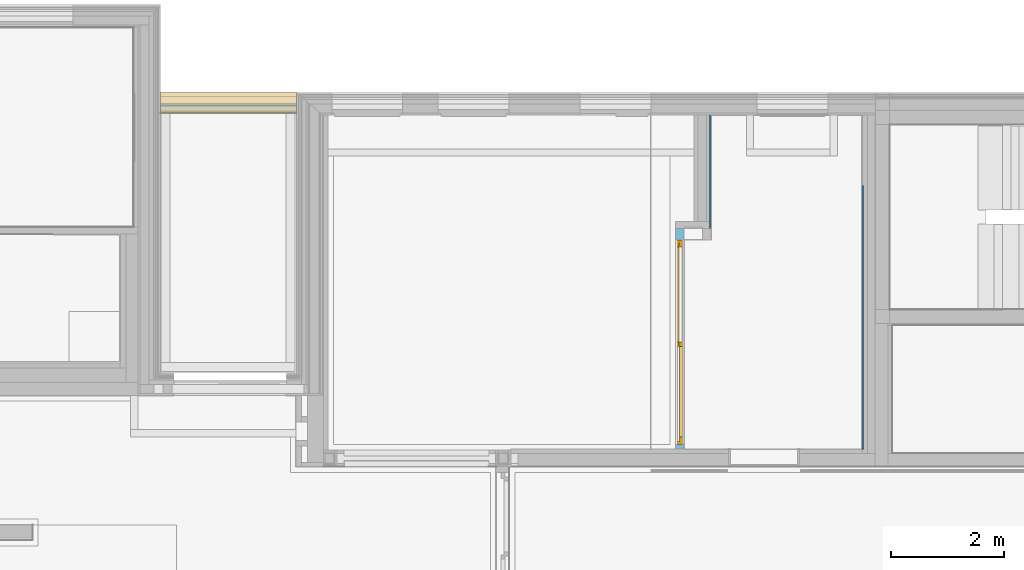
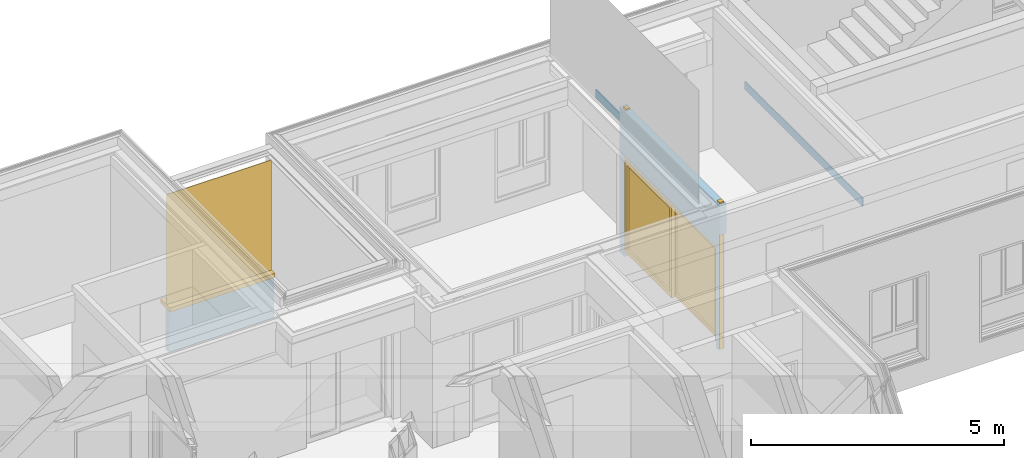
# One storey, part 106 of 222: 2 walls, 1 door, 1 window, 2 openings, plus 2 elements that do not belong to this part.
"""IFC4 building model written with IfcOpenShell, lengths in metres."""

from ifc_helpers import new_model, entity, si_unit, converted_unit, derived_unit, frame, frame_2d, origin, origin_with_axes, place, context, subcontext, project, spatial, polyline, rectangle, outline, extrude, clip, bounded_halfspace, closed_shell, open_shell, faceted_brep, surface_model, source, transform, mapped, material, element, fill, save


model = new_model("IFC4")

# Units and contexts
model_context = context("Model", 3, precision=1e-05, world=origin())
body_context = subcontext(model_context, "Body", "Model", "MODEL_VIEW")
ifc_project = project(units=[si_unit("LENGTHUNIT", "METRE"), si_unit("AREAUNIT", "SQUARE_METRE"), si_unit("VOLUMEUNIT", "CUBIC_METRE"), si_unit("MASSUNIT", "GRAM", prefix="KILO"), converted_unit("PLANEANGLEUNIT", "DEGREE", entity("IfcPlaneAngleMeasure", 0.0174532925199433), si_unit("PLANEANGLEUNIT", "RADIAN"), dimensions=[0, 0, 0, 0, 0, 0, 0]), derived_unit("THERMALTRANSMITTANCEUNIT", [(si_unit("POWERUNIT", "WATT"), 1), (si_unit("THERMODYNAMICTEMPERATUREUNIT", "KELVIN"), -1), (si_unit("LENGTHUNIT", "METRE"), -2)]), derived_unit("VOLUMETRICFLOWRATEUNIT", [(si_unit("LENGTHUNIT", "METRE"), 3), (converted_unit("TIMEUNIT", "hour", entity("IfcTimeMeasure", 3600.0), si_unit("TIMEUNIT", "SECOND"), dimensions=[0, 0, 1, 0, 0, 0, 0]), -1), (si_unit("LENGTHUNIT", "METRE"), -1)])], contexts=[model_context])

# Site, building, storey
site_placement = place(None, origin())
site = spatial("IfcSite", under=ifc_project, at=site_placement, Name="Psychiatrie Neubau Wunstorf", CompositionType="ELEMENT")
building_placement = place(site_placement, origin())
building = spatial("IfcBuilding", under=site, at=building_placement, Name="Neubau H2 Stationsgebäude", CompositionType="ELEMENT")
storey_placement = place(building_placement, frame((0.0, 0.0, 3.6)))
storey = spatial("IfcBuildingStorey", under=building, at=storey_placement, Name="H2 Ebene +1", CompositionType="ELEMENT", Elevation=3.6)

# Wall, opening, window
ifc_material_1 = material(Name="WI-SYS")
wall_1_placement = place(storey_placement, frame((37.6855, 29.2649998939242, -0.51), z_axis=(0.0, 0.0, 1.0), x_axis=(-1.0, 0.0, 0.0)))
wall_1 = element("IfcWall", 1, at=wall_1_placement, inside=storey, material=ifc_material_1, context=body_context, shape_type="SweptSolid", body=[
    extrude(rectangle(XDim=2.3945, YDim=0.127500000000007, at=frame_2d((1.19725, 0.0637500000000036), x_axis=(1.0, 0.0))), origin_with_axes(), (0.0, 0.0, 1.0), 3.685),
])
opening_1_placement = place(wall_1_placement, frame((0.0, 0.0, 1.0), z_axis=(0.0, 1.0, 0.0), x_axis=(0.0, 0.0, 1.0)))
opening_1 = element("IfcOpeningElement", 2, at=opening_1_placement, cuts=wall_1, Name="Fensteröffnung", ObjectType="Opening", context=body_context, shape_type="SweptSolid", body=[
    extrude(outline(polyline([(2.755, 2.3945), (2.755, 0.0), (0.0, 0.0), (0.0, 2.3945), (2.755, 2.3945)])), origin_with_axes(), (0.0, 0.0, 1.0), 0.127500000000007),
])
shared_shape_1 = source(origin_with_axes(), body_context, "Body", "Brep", [
    faceted_brep([(0.0, 0.37, 0.1), (0.0, 0.37, 0.0), (2.3945, 0.37, 0.0), (2.3945, 0.37, 0.1), (0.0, 0.0, 0.0), (0.0, 0.0, 0.1), (2.3945, 0.0, 0.1), (2.3945, 0.0, 0.0)], [[[0, 1, 2, 3]], [[4, 5, 6, 7]], [[1, 0, 5, 4]], [[2, 1, 4, 7]], [[3, 2, 7, 6]], [[0, 3, 6, 5]]], orient=[[False], [False], [False], [False], [False], [False]]),
    faceted_brep([(0.0, 0.24, 2.755), (0.0, 0.24, 0.1), (0.06, 0.24, 0.1), (0.06, 0.24, 2.755), (0.0, 0.225, 0.1), (0.0, 0.225, 2.755), (0.06, 0.225, 2.755), (0.06, 0.225, 0.1)], [[[0, 1, 2, 3]], [[4, 5, 6, 7]], [[1, 0, 5, 4]], [[2, 1, 4, 7]], [[3, 2, 7, 6]], [[0, 3, 6, 5]]], orient=[[False], [False], [False], [False], [False], [False]]),
    faceted_brep([(2.3345, 0.24, 2.755), (2.3345, 0.24, 0.1), (2.3945, 0.24, 0.1), (2.3945, 0.24, 2.755), (2.3345, 0.225, 0.1), (2.3345, 0.225, 2.755), (2.3945, 0.225, 2.755), (2.3945, 0.225, 0.1)], [[[0, 1, 2, 3]], [[4, 5, 6, 7]], [[1, 0, 5, 4]], [[2, 1, 4, 7]], [[3, 2, 7, 6]], [[0, 3, 6, 5]]], orient=[[False], [False], [False], [False], [False], [False]]),
    faceted_brep([(0.06, 0.24, 0.12), (0.06, 0.24, 0.1), (2.3345, 0.24, 0.1), (2.3345, 0.24, 0.12), (0.06, 0.225, 0.1), (0.06, 0.225, 0.12), (2.3345, 0.225, 0.12), (2.3345, 0.225, 0.1)], [[[0, 1, 2, 3]], [[4, 5, 6, 7]], [[1, 0, 5, 4]], [[2, 1, 4, 7]], [[3, 2, 7, 6]], [[0, 3, 6, 5]]], orient=[[False], [False], [False], [False], [False], [False]]),
    faceted_brep([(0.06, 0.24, 2.755), (0.06, 0.24, 2.635), (2.3345, 0.24, 2.635), (2.3345, 0.24, 2.755), (0.06, 0.225, 2.635), (0.06, 0.225, 2.755), (2.3345, 0.225, 2.755), (2.3345, 0.225, 2.635)], [[[0, 1, 2, 3]], [[4, 5, 6, 7]], [[1, 0, 5, 4]], [[2, 1, 4, 7]], [[3, 2, 7, 6]], [[0, 3, 6, 5]]], orient=[[False], [False], [False], [False], [False], [False]]),
    faceted_brep([(0.778166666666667, 0.24, 2.635), (0.778166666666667, 0.24, 0.12), (0.838166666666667, 0.24, 0.12), (0.838166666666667, 0.24, 2.635), (0.778166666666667, 0.225, 0.12), (0.778166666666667, 0.225, 2.635), (0.838166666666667, 0.225, 2.635), (0.838166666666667, 0.225, 0.12)], [[[0, 1, 2, 3]], [[4, 5, 6, 7]], [[1, 0, 5, 4]], [[2, 1, 4, 7]], [[3, 2, 7, 6]], [[0, 3, 6, 5]]], orient=[[False], [False], [False], [False], [False], [False]]),
    faceted_brep([(1.55633333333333, 0.24, 2.635), (1.55633333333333, 0.24, 0.12), (1.61633333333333, 0.24, 0.12), (1.61633333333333, 0.24, 2.635), (1.55633333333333, 0.225, 0.12), (1.55633333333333, 0.225, 2.635), (1.61633333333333, 0.225, 2.635), (1.61633333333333, 0.225, 0.12)], [[[0, 1, 2, 3]], [[4, 5, 6, 7]], [[1, 0, 5, 4]], [[2, 1, 4, 7]], [[3, 2, 7, 6]], [[0, 3, 6, 5]]], orient=[[False], [False], [False], [False], [False], [False]]),
    faceted_brep([(0.06, 0.24, 2.635), (0.06, 0.24, 0.12), (0.778166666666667, 0.24, 0.12), (0.778166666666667, 0.24, 2.635), (0.06, 0.225, 0.12), (0.06, 0.225, 2.635), (0.778166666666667, 0.225, 2.635), (0.778166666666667, 0.225, 0.12)], [[[0, 1, 2, 3]], [[4, 5, 6, 7]], [[1, 0, 5, 4]], [[2, 1, 4, 7]], [[3, 2, 7, 6]], [[0, 3, 6, 5]]], orient=[[False], [False], [False], [False], [False], [False]]),
    faceted_brep([(0.838166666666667, 0.24, 2.635), (0.838166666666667, 0.24, 0.12), (1.55633333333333, 0.24, 0.12), (1.55633333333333, 0.24, 2.635), (0.838166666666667, 0.225, 0.12), (0.838166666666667, 0.225, 2.635), (1.55633333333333, 0.225, 2.635), (1.55633333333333, 0.225, 0.12)], [[[0, 1, 2, 3]], [[4, 5, 6, 7]], [[1, 0, 5, 4]], [[2, 1, 4, 7]], [[3, 2, 7, 6]], [[0, 3, 6, 5]]], orient=[[False], [False], [False], [False], [False], [False]]),
    faceted_brep([(1.61633333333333, 0.24, 2.635), (1.61633333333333, 0.24, 0.12), (2.3345, 0.24, 0.12), (2.3345, 0.24, 2.635), (1.61633333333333, 0.225, 0.12), (1.61633333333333, 0.225, 2.635), (2.3345, 0.225, 2.635), (2.3345, 0.225, 0.12)], [[[0, 1, 2, 3]], [[4, 5, 6, 7]], [[1, 0, 5, 4]], [[2, 1, 4, 7]], [[3, 2, 7, 6]], [[0, 3, 6, 5]]], orient=[[False], [False], [False], [False], [False], [False]]),
])
window_placement = place(opening_1_placement, frame((0.0, 0.0, -0.202500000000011), z_axis=(1.0, 0.0, 0.0), x_axis=(0.0, 1.0, -1.22464679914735e-16)))
window = element("IfcWindow", 3, at=window_placement, inside=storey, Name="Fenster", OverallHeight=2.755, OverallWidth=2.3945, PartitioningType="USERDEFINED", PredefinedType="WINDOW", context=body_context, shape_type="MappedRepresentation", body=[
    mapped(shared_shape_1, transform((0.0, 0.0, 0.0), x_axis=(1.0, 0.0, 0.0), y_axis=(0.0, 1.0, 0.0), z_axis=(0.0, 0.0, 1.0), scale=1.0)),
])
fill(opening_1, window)

# Wall, opening, door
ifc_material_2 = material(Name="WI-LB")
wall_2_placement = place(storey_placement, frame((44.525, 23.0959999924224, 0.0), z_axis=(0.0, 0.0, 1.0), x_axis=(0.0, 1.0, 0.0)))
wall_2 = element("IfcWall", 4, at=wall_2_placement, inside=storey, material=ifc_material_2, context=body_context, shape_type="Clipping", body=[
    clip(extrude(rectangle(XDim=3.96799969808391, YDim=0.15, at=frame_2d((1.98399984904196, 0.075), x_axis=(1.0, 0.0))), origin_with_axes(), (0.0, 0.0, 1.0), 3.51), bounded_halfspace(frame((0.0375, 0.075, 2.81), z_axis=(0.0, 0.0, 1.0), x_axis=(0.0, 1.0, 0.0)), True, origin_with_axes(), polyline([(0.075, 0.0), (0.075, 0.15), (0.0, 0.15), (0.0, 0.0), (0.075, 0.0)]))),
])
opening_2_placement = place(wall_2_placement, frame((0.157999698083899, 0.0, 0.0), z_axis=(0.0, 1.0, 0.0), x_axis=(0.0, 0.0, 1.0)))
opening_2 = element("IfcOpeningElement", 5, at=opening_2_placement, cuts=wall_2, Name="Türöffnung", ObjectType="Opening", context=body_context, shape_type="SweptSolid", body=[
    extrude(outline(polyline([(2.41, 3.61), (2.41, 0.0), (0.0, 0.0), (0.0, 3.61), (2.41, 3.61)])), origin_with_axes(), (0.0, 0.0, 1.0), 0.15),
])
ifc_material_3 = material(Name="TI-1F-AG-S")
shared_shape_2 = source(origin_with_axes(), body_context, "Body", "Brep", [
    faceted_brep([(3.70999999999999, 0.0249999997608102, 0.0), (3.70999999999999, 0.12499999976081, 0.0), (3.60999999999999, 0.12499999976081, 0.0), (3.60999999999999, 0.0249999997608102, 0.0), (3.70999999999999, 0.12499999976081, 3.55), (3.70999999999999, 0.0249999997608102, 3.55), (3.60999999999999, 0.0249999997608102, 3.55), (3.60999999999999, 0.12499999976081, 3.55)], [[[0, 1, 2, 3]], [[4, 5, 6, 7]], [[1, 0, 5, 4]], [[2, 1, 4, 7]], [[3, 2, 7, 6]], [[0, 3, 6, 5]]], orient=[[False], [False], [False], [False], [False], [False]]),
    faceted_brep([(0.0, 0.0249999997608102, 0.0), (0.0, 0.12499999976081, 0.0), (-0.100000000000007, 0.12499999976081, 0.0), (-0.100000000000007, 0.0249999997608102, 0.0), (0.0, 0.12499999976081, 3.55), (0.0, 0.0249999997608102, 3.55), (-0.100000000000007, 0.0249999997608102, 3.55), (-0.100000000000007, 0.12499999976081, 3.55)], [[[0, 1, 2, 3]], [[4, 5, 6, 7]], [[1, 0, 5, 4]], [[2, 1, 4, 7]], [[3, 2, 7, 6]], [[0, 3, 6, 5]]], orient=[[False], [False], [False], [False], [False], [False]]),
    faceted_brep([(3.60999999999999, 0.0249999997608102, 2.41), (3.60999999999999, 0.12499999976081, 2.41), (0.0, 0.12499999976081, 2.41), (0.0, 0.0249999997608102, 2.41), (3.60999999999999, 0.12499999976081, 2.51), (3.60999999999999, 0.0249999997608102, 2.51), (0.0, 0.0249999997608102, 2.51), (0.0, 0.12499999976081, 2.51)], [[[0, 1, 2, 3]], [[4, 5, 6, 7]], [[1, 0, 5, 4]], [[2, 1, 4, 7]], [[3, 2, 7, 6]], [[0, 3, 6, 5]]], orient=[[False], [False], [False], [False], [False], [False]]),
])
shared_shape_3 = source(origin_with_axes(), body_context, "Body", "SurfaceModel", [
    surface_model("IfcShellBasedSurfaceModel", [(3.60999999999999, 0.149999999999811, 2.41), (3.55999999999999, 0.149999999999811, 2.41), (3.55999999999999, 0.149999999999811, 0.15), (3.60999999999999, 0.149999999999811, 0.15), (3.60999999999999, 0.0, 0.15), (3.55999999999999, 0.0, 0.15), (3.55999999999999, 0.0, 2.41), (3.60999999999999, 0.0, 2.41)], [closed_shell([[[0, 1, 2, 3]], [[4, 5, 6, 7]], [[3, 4, 7, 0]], [[2, 5, 4, 3]], [[1, 6, 5, 2]], [[0, 7, 6, 1]]], orient=[[False], [False], [False], [False], [False], [False]])]),
    surface_model("IfcShellBasedSurfaceModel", [(0.0499999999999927, 0.149999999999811, 2.41), (0.0, 0.149999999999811, 2.41), (0.0, 0.149999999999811, 0.15), (0.0499999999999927, 0.149999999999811, 0.15), (0.0499999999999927, 0.0, 0.15), (0.0, 0.0, 0.15), (0.0, 0.0, 2.41), (0.0499999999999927, 0.0, 2.41)], [closed_shell([[[0, 1, 2, 3]], [[4, 5, 6, 7]], [[3, 4, 7, 0]], [[2, 5, 4, 3]], [[1, 6, 5, 2]], [[0, 7, 6, 1]]], orient=[[False], [False], [False], [False], [False], [False]])]),
    surface_model("IfcShellBasedSurfaceModel", [(3.55999999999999, 0.149999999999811, 2.41), (0.0499999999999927, 0.149999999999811, 2.41), (0.0499999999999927, 0.149999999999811, 2.36), (3.55999999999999, 0.149999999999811, 2.36), (3.55999999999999, 0.0, 2.36), (0.0499999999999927, 0.0, 2.36), (0.0499999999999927, 0.0, 2.41), (3.55999999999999, 0.0, 2.41)], [closed_shell([[[0, 1, 2, 3]], [[4, 5, 6, 7]], [[3, 4, 7, 0]], [[2, 5, 4, 3]], [[1, 6, 5, 2]], [[0, 7, 6, 1]]], orient=[[False], [False], [False], [False], [False], [False]])]),
    surface_model("IfcShellBasedSurfaceModel", [(3.55999999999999, 0.0799999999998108, 2.36), (3.47999999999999, 0.0799999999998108, 2.36), (3.47999999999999, 0.0799999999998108, 0.15), (3.55999999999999, 0.0799999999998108, 0.15), (3.55999999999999, 0.0, 0.15), (3.47999999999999, 0.0, 0.15), (3.47999999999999, 0.0, 2.36), (3.55999999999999, 0.0, 2.36)], [closed_shell([[[0, 1, 2, 3]], [[4, 5, 6, 7]], [[3, 4, 7, 0]], [[2, 5, 4, 3]], [[1, 6, 5, 2]], [[0, 7, 6, 1]]], orient=[[False], [False], [False], [False], [False], [False]])]),
    surface_model("IfcShellBasedSurfaceModel", [(0.129999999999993, 0.0799999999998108, 2.36), (0.0499999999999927, 0.0799999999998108, 2.36), (0.0499999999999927, 0.0799999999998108, 0.15), (0.129999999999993, 0.0799999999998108, 0.15), (0.129999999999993, 0.0, 0.15), (0.0499999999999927, 0.0, 0.15), (0.0499999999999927, 0.0, 2.36), (0.129999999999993, 0.0, 2.36)], [closed_shell([[[0, 1, 2, 3]], [[4, 5, 6, 7]], [[3, 4, 7, 0]], [[2, 5, 4, 3]], [[1, 6, 5, 2]], [[0, 7, 6, 1]]], orient=[[False], [False], [False], [False], [False], [False]])]),
    surface_model("IfcShellBasedSurfaceModel", [(3.47999999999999, 0.0799999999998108, 2.36), (0.129999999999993, 0.0799999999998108, 2.36), (0.129999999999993, 0.0799999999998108, 2.28), (3.47999999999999, 0.0799999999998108, 2.28), (3.47999999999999, 0.0, 2.28), (0.129999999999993, 0.0, 2.28), (0.129999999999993, 0.0, 2.36), (3.47999999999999, 0.0, 2.36)], [closed_shell([[[0, 1, 2, 3]], [[4, 5, 6, 7]], [[3, 4, 7, 0]], [[2, 5, 4, 3]], [[1, 6, 5, 2]], [[0, 7, 6, 1]]], orient=[[False], [False], [False], [False], [False], [False]])]),
    surface_model("IfcShellBasedSurfaceModel", [(3.55999999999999, 0.169999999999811, 2.36), (3.47999999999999, 0.169999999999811, 2.36), (3.47999999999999, 0.169999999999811, 0.15), (3.55999999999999, 0.169999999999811, 0.15), (3.55999999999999, 0.0899999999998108, 0.15), (3.47999999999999, 0.0899999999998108, 0.15), (3.47999999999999, 0.0899999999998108, 2.36), (3.55999999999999, 0.0899999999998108, 2.36)], [closed_shell([[[0, 1, 2, 3]], [[4, 5, 6, 7]], [[3, 4, 7, 0]], [[2, 5, 4, 3]], [[1, 6, 5, 2]], [[0, 7, 6, 1]]], orient=[[False], [False], [False], [False], [False], [False]])]),
    surface_model("IfcShellBasedSurfaceModel", [(1.80549999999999, 0.169999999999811, 2.36), (1.72549999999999, 0.169999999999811, 2.36), (1.72549999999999, 0.169999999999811, 0.15), (1.80549999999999, 0.169999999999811, 0.15), (1.80549999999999, 0.0899999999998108, 0.15), (1.72549999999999, 0.0899999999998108, 0.15), (1.72549999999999, 0.0899999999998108, 2.36), (1.80549999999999, 0.0899999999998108, 2.36)], [closed_shell([[[0, 1, 2, 3]], [[4, 5, 6, 7]], [[3, 4, 7, 0]], [[2, 5, 4, 3]], [[1, 6, 5, 2]], [[0, 7, 6, 1]]], orient=[[False], [False], [False], [False], [False], [False]])]),
    surface_model("IfcShellBasedSurfaceModel", [(3.47999999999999, 0.169999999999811, 0.27), (1.80549999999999, 0.169999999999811, 0.27), (1.80549999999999, 0.169999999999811, 0.15), (3.47999999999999, 0.169999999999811, 0.15), (3.47999999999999, 0.0899999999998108, 0.15), (1.80549999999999, 0.0899999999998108, 0.15), (1.80549999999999, 0.0899999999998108, 0.27), (3.47999999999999, 0.0899999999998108, 0.27)], [closed_shell([[[0, 1, 2, 3]], [[4, 5, 6, 7]], [[3, 4, 7, 0]], [[2, 5, 4, 3]], [[1, 6, 5, 2]], [[0, 7, 6, 1]]], orient=[[False], [False], [False], [False], [False], [False]])]),
    surface_model("IfcShellBasedSurfaceModel", [(3.47999999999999, 0.169999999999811, 2.36), (1.80549999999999, 0.169999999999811, 2.36), (1.80549999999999, 0.169999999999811, 2.28), (3.47999999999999, 0.169999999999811, 2.28), (3.47999999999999, 0.0899999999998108, 2.28), (1.80549999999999, 0.0899999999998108, 2.28), (1.80549999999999, 0.0899999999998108, 2.36), (3.47999999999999, 0.0899999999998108, 2.36)], [closed_shell([[[0, 1, 2, 3]], [[4, 5, 6, 7]], [[3, 4, 7, 0]], [[2, 5, 4, 3]], [[1, 6, 5, 2]], [[0, 7, 6, 1]]], orient=[[False], [False], [False], [False], [False], [False]])]),
    surface_model("IfcShellBasedSurfaceModel", [(1.80449999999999, 0.0799999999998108, 2.28), (1.72449999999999, 0.0799999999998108, 2.28), (1.72449999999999, 0.0799999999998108, 0.15), (1.80449999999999, 0.0799999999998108, 0.15), (1.80449999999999, 0.0, 0.15), (1.72449999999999, 0.0, 0.15), (1.72449999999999, 0.0, 2.28), (1.80449999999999, 0.0, 2.28)], [closed_shell([[[0, 1, 2, 3]], [[4, 5, 6, 7]], [[3, 4, 7, 0]], [[2, 5, 4, 3]], [[1, 6, 5, 2]], [[0, 7, 6, 1]]], orient=[[False], [False], [False], [False], [False], [False]])]),
    surface_model("IfcShellBasedSurfaceModel", [(1.72449999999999, 0.0799999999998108, 0.23), (0.129999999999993, 0.0799999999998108, 0.23), (0.129999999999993, 0.0799999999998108, 0.15), (1.72449999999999, 0.0799999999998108, 0.15), (1.72449999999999, 0.0, 0.15), (0.129999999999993, 0.0, 0.15), (0.129999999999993, 0.0, 0.23), (1.72449999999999, 0.0, 0.23)], [closed_shell([[[0, 1, 2, 3]], [[4, 5, 6, 7]], [[3, 4, 7, 0]], [[2, 5, 4, 3]], [[1, 6, 5, 2]], [[0, 7, 6, 1]]], orient=[[False], [False], [False], [False], [False], [False]])]),
    surface_model("IfcShellBasedSurfaceModel", [(1.72449999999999, 0.0399999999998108, 0.23), (1.72449999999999, 0.0399999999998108, 2.28), (0.129999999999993, 0.0399999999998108, 2.28), (0.129999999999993, 0.0399999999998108, 0.23)], [open_shell([[[0, 1, 2, 3]]], orient=[[False]])]),
    surface_model("IfcShellBasedSurfaceModel", [(3.47999999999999, 0.129999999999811, 0.27), (3.47999999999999, 0.129999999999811, 2.28), (1.80549999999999, 0.129999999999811, 2.28), (1.80549999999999, 0.129999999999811, 0.27)], [open_shell([[[0, 1, 2, 3]]], orient=[[False]])]),
])
door_placement = place(opening_2_placement, frame((0.0, 0.0, 0.0), z_axis=(1.0, 0.0, 0.0), x_axis=(0.0, 1.0, 0.0)))
door = element("IfcDoor", 6, at=door_placement, inside=storey, material=ifc_material_3, Name="SMT", OperationType="USERDEFINED", OverallHeight=2.41, OverallWidth=3.61, PredefinedType="DOOR", context=body_context, shape_type="MappedRepresentation", body=[
    mapped(shared_shape_2, transform((0.0, 0.0, 0.0), x_axis=(1.0, 0.0, 0.0), y_axis=(0.0, 1.0, 0.0), z_axis=(0.0, 0.0, 1.0), scale=1.0)),
    mapped(shared_shape_3, transform((0.0, 0.0, 0.0), x_axis=(1.0, 0.0, 0.0), y_axis=(0.0, 1.0, 0.0), z_axis=(0.0, 0.0, 1.0), scale=1.0)),
])
fill(opening_2, door)

# Walls
wall_3_placement = place(storey_placement, frame((44.975, 26.8639996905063, 2.3)))
element("IfcWall", 7, at=wall_3_placement, inside=storey, Name="WV 1.1", context=body_context, shape_type="Brep", body=[
    faceted_brep([(0.025, 2.2, 0.0), (0.0, 2.2, 0.0), (0.0, 0.0, 0.0), (0.025, 0.0, 0.0), (0.0, 2.2, 0.2), (0.025, 2.2, 0.2), (0.025, 0.0, 0.2), (0.0, 0.0, 0.2)], [[[0, 1, 2, 3]], [[4, 5, 6, 7]], [[1, 0, 5, 4]], [[2, 1, 4, 7]], [[3, 2, 7, 6]], [[0, 3, 6, 5]]], orient=[[False], [False], [False], [False], [False], [False]]),
])
wall_4_placement = place(storey_placement, frame((47.664, 23.1709999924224, 2.3)))
element("IfcWall", 8, at=wall_4_placement, inside=storey, Name="WV 1.1", context=body_context, shape_type="Brep", body=[
    faceted_brep([(0.025, 4.65, 0.0), (0.0, 4.65, 0.0), (0.0, 0.0, 0.0), (0.025, 0.0, 0.0), (0.0, 4.65, 0.2), (0.025, 4.65, 0.2), (0.025, 0.0, 0.2), (0.0, 0.0, 0.2)], [[[0, 1, 2, 3]], [[4, 5, 6, 7]], [[1, 0, 5, 4]], [[2, 1, 4, 7]], [[3, 2, 7, 6]], [[0, 3, 6, 5]]], orient=[[False], [False], [False], [False], [False], [False]]),
])

save(model, "model.ifc")
